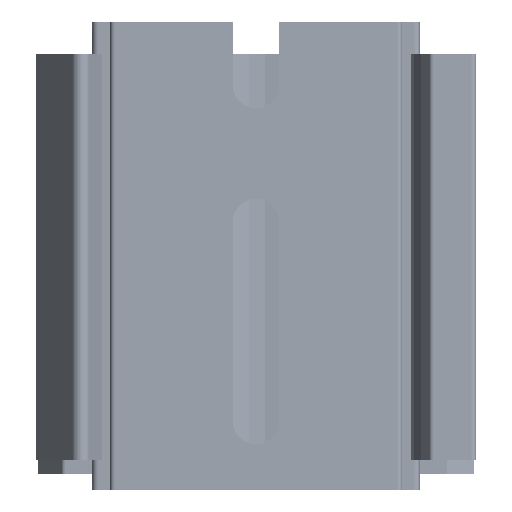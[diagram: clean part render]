
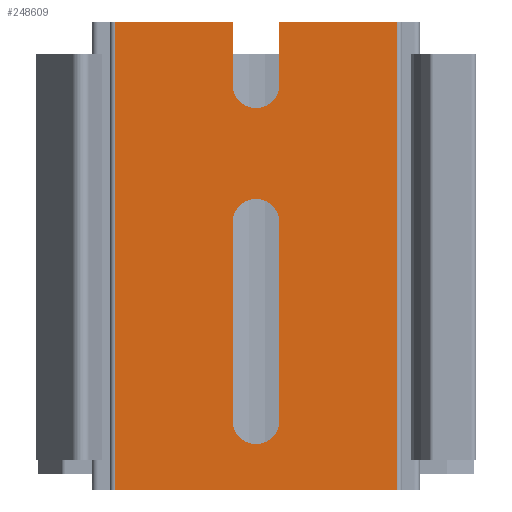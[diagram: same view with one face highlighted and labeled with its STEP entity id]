
A CAD part, front view. The second image highlights one B-rep face of the part: STEP entity #248609.
In plain terms, the highlighted planar face has unit normal (0, -1, 0).
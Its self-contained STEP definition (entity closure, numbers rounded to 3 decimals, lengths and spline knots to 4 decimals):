
#9829=CARTESIAN_POINT('',(0.6891,0.,-0.1656));
#9830=DIRECTION('',(0.,-1.,0.));
#9831=DIRECTION('',(-1.,0.,0.));
#9832=AXIS2_PLACEMENT_3D('',#9829,#9830,#9831);
#9834=DIRECTION('',(1.,0.,0.));
#9835=VECTOR('',#9834,0.4961);
#9836=CARTESIAN_POINT('',(0.7875,0.,0.0982));
#9837=LINE('',#9836,#9835);
#9838=DIRECTION('',(-1.,0.,0.));
#9839=VECTOR('',#9838,1.189);
#9840=CARTESIAN_POINT('',(1.2836,0.,
-1.8703));
#9841=LINE('',#9840,#9839);
#9842=DIRECTION('',(1.,0.,0.));
#9843=VECTOR('',#9842,0.4961);
#9844=CARTESIAN_POINT('',(0.0946,0.,0.0982));
#9845=LINE('',#9844,#9843);
#9846=DIRECTION('',(0.,0.,-1.));
#9847=VECTOR('',#9846,0.2638);
#9848=CARTESIAN_POINT('',(0.5906,0.,0.0982));
#9849=LINE('',#9848,#9847);
#9850=CARTESIAN_POINT('',(0.6891,0.,-1.579));
#9851=DIRECTION('',(0.,-1.,0.));
#9852=DIRECTION('',(-1.,0.,0.));
#9853=AXIS2_PLACEMENT_3D('',#9850,#9851,#9852);
#9855=CARTESIAN_POINT('',(0.6891,0.,-0.7443));
#9856=DIRECTION('',(0.,-1.,0.));
#9857=DIRECTION('',(1.,0.,0.));
#9858=AXIS2_PLACEMENT_3D('',#9855,#9856,#9857);
#9860=DIRECTION('',(0.,0.,-1.));
#9861=VECTOR('',#9860,0.2638);
#9862=CARTESIAN_POINT('',(0.7875,0.,0.0982));
#9863=LINE('',#9862,#9861);
#10040=DIRECTION('',(0.,0.,-1.));
#10041=VECTOR('',#10040,1.9685);
#10042=CARTESIAN_POINT('',(0.0946,0.,0.0982));
#10043=LINE('',#10042,#10041);
#88155=DIRECTION('',(0.,0.,1.));
#88156=VECTOR('',#88155,1.9685);
#88157=CARTESIAN_POINT('',(1.2836,0.,
-1.8703));
#88158=LINE('',#88157,#88156);
#158246=DIRECTION('',(0.,0.,1.));
#158247=VECTOR('',#158246,0.8346);
#158248=CARTESIAN_POINT('',(0.5906,0.,-1.579));
#158249=LINE('',#158248,#158247);
#158258=DIRECTION('',(0.,0.,-1.));
#158259=VECTOR('',#158258,0.8346);
#158260=CARTESIAN_POINT('',(0.7875,0.,-0.7443));
#158261=LINE('',#158260,#158259);
#187339=CARTESIAN_POINT('',(0.0946,0.,-1.8703));
#187340=VERTEX_POINT('',#187339);
#187341=CARTESIAN_POINT('',(1.2836,0.,
-1.8703));
#187343=VERTEX_POINT('',#187341);
#187369=CARTESIAN_POINT('',(0.5906,0.,0.0982));
#187371=VERTEX_POINT('',#187369);
#187373=CARTESIAN_POINT('',(0.0946,0.,0.0982));
#187375=VERTEX_POINT('',#187373);
#187400=CARTESIAN_POINT('',(0.7875,0.,0.0982));
#187402=VERTEX_POINT('',#187400);
#187427=CARTESIAN_POINT('',(1.2836,0.,
0.0982));
#187428=VERTEX_POINT('',#187427);
#187429=CARTESIAN_POINT('',(0.5906,0.,-0.1656));
#187431=VERTEX_POINT('',#187429);
#187433=CARTESIAN_POINT('',(0.5906,0.,-1.579));
#187434=CARTESIAN_POINT('',(0.7875,0.,-1.579));
#187435=VERTEX_POINT('',#187433);
#187436=VERTEX_POINT('',#187434);
#187437=CARTESIAN_POINT('',(0.7875,0.,-0.7443));
#187438=VERTEX_POINT('',#187437);
#187439=CARTESIAN_POINT('',(0.5906,0.,-0.7443));
#187440=VERTEX_POINT('',#187439);
#187441=CARTESIAN_POINT('',(0.7875,0.,-0.1656));
#187442=VERTEX_POINT('',#187441);
#248577=CARTESIAN_POINT('',(0.6891,0.,-0.8861));
#248578=DIRECTION('',(0.,1.,0.));
#248579=DIRECTION('',(1.,0.,0.));
#248580=AXIS2_PLACEMENT_3D('',#248577,#248578,#248579);
#248581=PLANE('',#248580);
#248582=ORIENTED_EDGE('',*,*,#248567,.T.);
#248584=ORIENTED_EDGE('',*,*,#248583,.F.);
#248586=ORIENTED_EDGE('',*,*,#248585,.T.);
#248588=ORIENTED_EDGE('',*,*,#248587,.F.);
#248590=ORIENTED_EDGE('',*,*,#248589,.T.);
#248592=ORIENTED_EDGE('',*,*,#248591,.F.);
#248594=ORIENTED_EDGE('',*,*,#248593,.T.);
#248596=ORIENTED_EDGE('',*,*,#248595,.T.);
#248597=EDGE_LOOP('',(#248582,#248584,#248586,#248588,#248590,#248592,#248594,
#248596));
#248598=FACE_OUTER_BOUND('',#248597,.F.);
#248600=ORIENTED_EDGE('',*,*,#248599,.T.);
#248602=ORIENTED_EDGE('',*,*,#248601,.F.);
#248604=ORIENTED_EDGE('',*,*,#248603,.T.);
#248606=ORIENTED_EDGE('',*,*,#248605,.F.);
#248607=EDGE_LOOP('',(#248600,#248602,#248604,#248606));
#248608=FACE_BOUND('',#248607,.F.);
#248609=ADVANCED_FACE('',(#248598,#248608),#248581,.F.);
#9833=CIRCLE('',#9832,0.0984);
#9854=CIRCLE('',#9853,0.0984);
#9859=CIRCLE('',#9858,0.0984);
#248567=EDGE_CURVE('',#187431,#187442,#9833,.T.);
#248583=EDGE_CURVE('',#187402,#187442,#9863,.T.);
#248585=EDGE_CURVE('',#187402,#187428,#9837,.T.);
#248587=EDGE_CURVE('',#187343,#187428,#88158,.T.);
#248589=EDGE_CURVE('',#187343,#187340,#9841,.T.);
#248591=EDGE_CURVE('',#187375,#187340,#10043,.T.);
#248593=EDGE_CURVE('',#187375,#187371,#9845,.T.);
#248595=EDGE_CURVE('',#187371,#187431,#9849,.T.);
#248599=EDGE_CURVE('',#187435,#187436,#9854,.T.);
#248601=EDGE_CURVE('',#187438,#187436,#158261,.T.);
#248603=EDGE_CURVE('',#187438,#187440,#9859,.T.);
#248605=EDGE_CURVE('',#187435,#187440,#158249,.T.);
